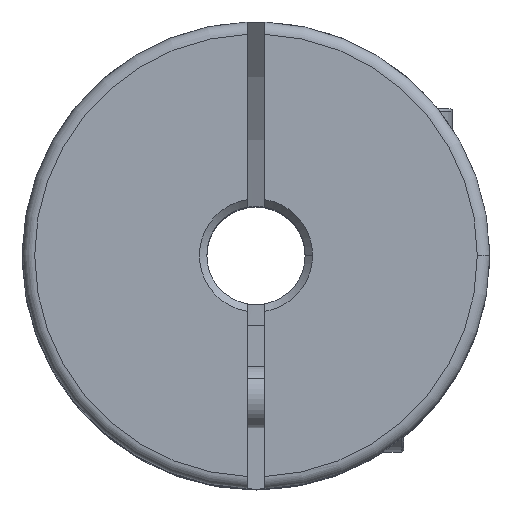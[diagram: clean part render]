
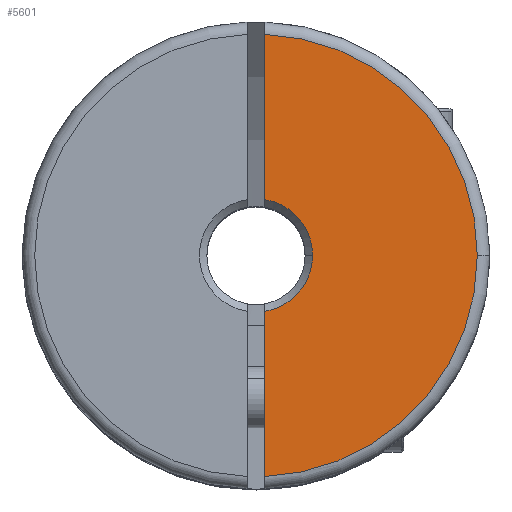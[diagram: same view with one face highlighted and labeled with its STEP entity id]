
A CAD part, top view. The second image highlights one B-rep face of the part: STEP entity #5601.
In plain terms, the highlighted planar face has unit normal (0, 0, 1).
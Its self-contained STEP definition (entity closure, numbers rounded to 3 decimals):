
#128 = EDGE_CURVE ( 'NONE', #5869, #792, #6109, .T. ) ;
#188 = EDGE_CURVE ( 'NONE', #5487, #5869, #5442, .T. ) ;
#261 = EDGE_CURVE ( 'NONE', #5487, #369, #3925, .T. ) ;
#344 = EDGE_CURVE ( 'NONE', #3752, #369, #2470, .T. ) ;
#346 = DIRECTION ( 'NONE',  ( 0., 0., -1. ) ) ;
#369 = VERTEX_POINT ( 'NONE', #518 ) ;
#374 = ORIENTED_EDGE ( 'NONE', *, *, #188, .T. ) ;
#427 = CARTESIAN_POINT ( 'NONE',  ( 0.35, 8.993, 23. ) ) ;
#479 = DIRECTION ( 'NONE',  ( 0., 0., 1. ) ) ;
#518 = CARTESIAN_POINT ( 'NONE',  ( 0.35, -2.273, 23. ) ) ;
#535 = EDGE_CURVE ( 'NONE', #3491, #792, #2710, .T. ) ;
#749 = DIRECTION ( 'NONE',  ( 0., 0., 1. ) ) ;
#792 = VERTEX_POINT ( 'NONE', #427 ) ;
#858 = ORIENTED_EDGE ( 'NONE', *, *, #1500, .T. ) ;
#926 = DIRECTION ( 'NONE',  ( 0., 1., 0. ) ) ;
#1177 = DIRECTION ( 'NONE',  ( 0., 1., 0. ) ) ;
#1183 = DIRECTION ( 'NONE',  ( 1., 0., 0. ) ) ;
#1220 = CARTESIAN_POINT ( 'NONE',  ( 0., 0., 23. ) ) ;
#1411 = CIRCLE ( 'NONE', #2763, 2.3 ) ;
#1450 = CARTESIAN_POINT ( 'NONE',  ( 0., 0., 23. ) ) ;
#1500 = EDGE_CURVE ( 'NONE', #3491, #3752, #1411, .T. ) ;
#1745 = PLANE ( 'NONE',  #5985 ) ;
#2288 = CARTESIAN_POINT ( 'NONE',  ( 0., 0., 23. ) ) ;
#2297 = ORIENTED_EDGE ( 'NONE', *, *, #128, .T. ) ;
#2470 = CIRCLE ( 'NONE', #2946, 2.3 ) ;
#2710 = LINE ( 'NONE', #5518, #5135 ) ;
#2763 = AXIS2_PLACEMENT_3D ( 'NONE', #1220, #346, #4636 ) ;
#2777 = DIRECTION ( 'NONE',  ( 0., 0., 1. ) ) ;
#2816 = CARTESIAN_POINT ( 'NONE',  ( 0.35, -4.75, 23. ) ) ;
#2852 = VECTOR ( 'NONE', #926, 1000. ) ;
#2894 = DIRECTION ( 'NONE',  ( 1., 0., 0. ) ) ;
#2946 = AXIS2_PLACEMENT_3D ( 'NONE', #1450, #5331, #2894 ) ;
#3028 = AXIS2_PLACEMENT_3D ( 'NONE', #2288, #479, #4765 ) ;
#3070 = ORIENTED_EDGE ( 'NONE', *, *, #261, .F. ) ;
#3218 = ORIENTED_EDGE ( 'NONE', *, *, #535, .F. ) ;
#3431 = CARTESIAN_POINT ( 'NONE',  ( 9., 0., 23. ) ) ;
#3491 = VERTEX_POINT ( 'NONE', #4121 ) ;
#3576 = EDGE_LOOP ( 'NONE', ( #3070, #374, #2297, #3218, #858, #5577 ) ) ;
#3752 = VERTEX_POINT ( 'NONE', #4177 ) ;
#3925 = LINE ( 'NONE', #2816, #2852 ) ;
#3932 = AXIS2_PLACEMENT_3D ( 'NONE', #4206, #2777, #4184 ) ;
#4028 = CARTESIAN_POINT ( 'NONE',  ( 0.35, -8.993, 23. ) ) ;
#4121 = CARTESIAN_POINT ( 'NONE',  ( 0.35, 2.273, 23. ) ) ;
#4177 = CARTESIAN_POINT ( 'NONE',  ( 2.3, 0., 23. ) ) ;
#4184 = DIRECTION ( 'NONE',  ( 1., 0., 0. ) ) ;
#4206 = CARTESIAN_POINT ( 'NONE',  ( 0., 0., 23. ) ) ;
#4636 = DIRECTION ( 'NONE',  ( 1., 0., 0. ) ) ;
#4765 = DIRECTION ( 'NONE',  ( 1., 0., 0. ) ) ;
#5135 = VECTOR ( 'NONE', #1177, 1000. ) ;
#5312 = FACE_OUTER_BOUND ( 'NONE', #3576, .T. ) ;
#5331 = DIRECTION ( 'NONE',  ( 0., 0., -1. ) ) ;
#5442 = CIRCLE ( 'NONE', #3028, 9. ) ;
#5487 = VERTEX_POINT ( 'NONE', #4028 ) ;
#5518 = CARTESIAN_POINT ( 'NONE',  ( 0.35, -4.75, 23. ) ) ;
#5522 = CARTESIAN_POINT ( 'NONE',  ( 0., -4.75, 23. ) ) ;
#5577 = ORIENTED_EDGE ( 'NONE', *, *, #344, .T. ) ;
#5601 = ADVANCED_FACE ( 'NONE', ( #5312 ), #1745, .T. ) ;
#5869 = VERTEX_POINT ( 'NONE', #3431 ) ;
#5985 = AXIS2_PLACEMENT_3D ( 'NONE', #5522, #749, #1183 ) ;
#6109 = CIRCLE ( 'NONE', #3932, 9. ) ;
